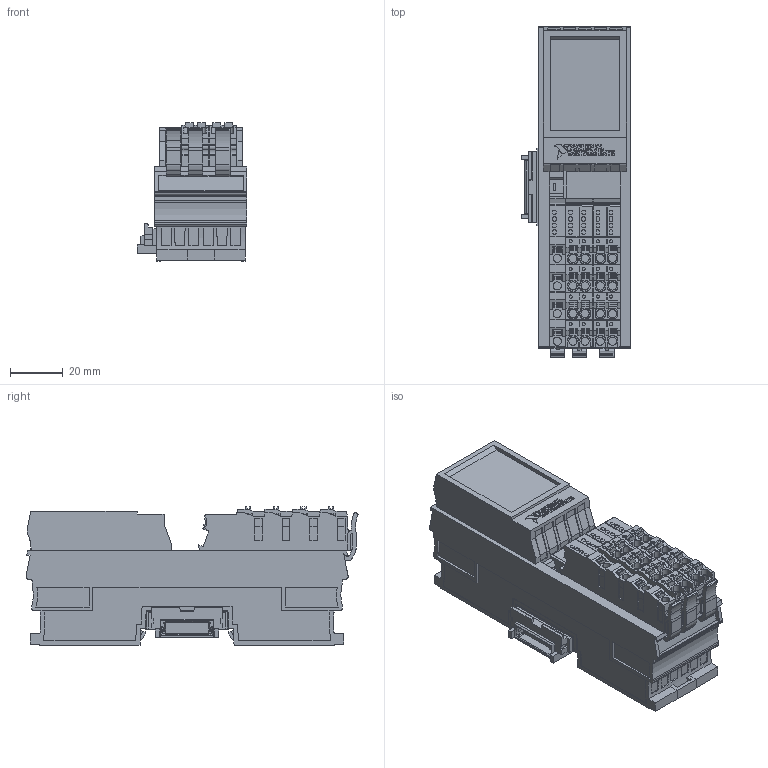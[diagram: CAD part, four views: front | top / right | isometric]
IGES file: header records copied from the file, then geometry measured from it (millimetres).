
Start section:  PTC IGES file: rem-11100_2688501_axl_sw0001.igs
Global section: file name: rem-11100_2688501_axl_sw0001.igs; native system: Creo Parametric by PTC Inc.; preprocessor: 2015380; author: dkendric; organization: Unknown; date: 20170511.091438; units: inch
Bounding box: 41.8 x 126.17 x 52.6 mm (x, y, z)
Surface area: 46418.5 mm2 (no closed solid volume)
Topology: 0 solids, 0 shells, 2500 faces, 14116 edges, 14116 vertices
Faces by surface type: bspline 2001, revolution 420, extrusion 79
